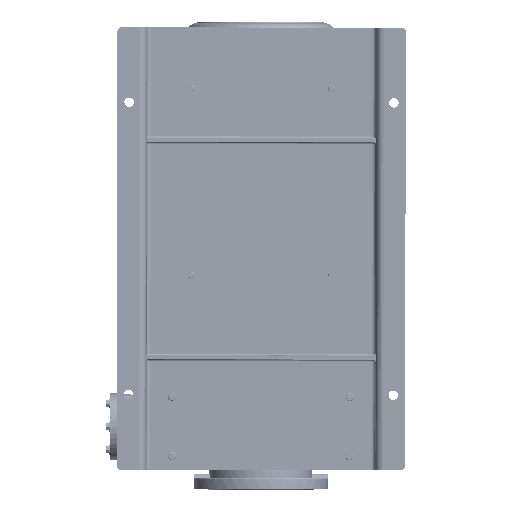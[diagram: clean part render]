
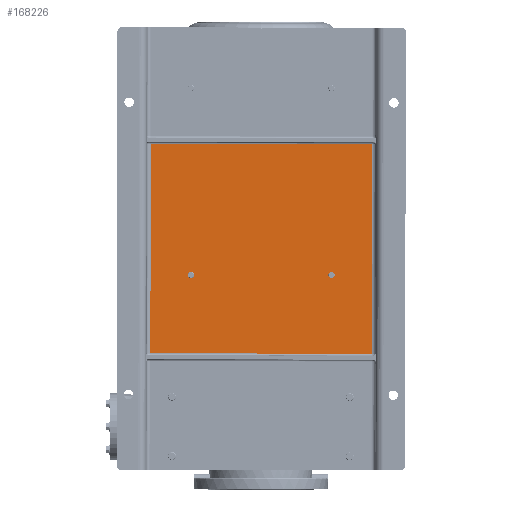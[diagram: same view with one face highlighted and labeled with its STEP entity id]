
A CAD part, front view. The second image highlights one B-rep face of the part: STEP entity #168226.
In plain terms, the highlighted planar face has unit normal (0, -1, 0).
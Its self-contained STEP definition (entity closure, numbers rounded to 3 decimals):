
#4432 = CARTESIAN_POINT ( 'NONE',  ( 75., 90., -825. ) ) ;
#6120 = EDGE_CURVE ( 'NONE', #97899, #99027, #104222, .T. ) ;
#6488 = LINE ( 'NONE', #169000, #59017 ) ;
#13656 = CARTESIAN_POINT ( 'NONE',  ( 645., 90., -290. ) ) ;
#16608 = CARTESIAN_POINT ( 'NONE',  ( 186.99, 90., -502. ) ) ;
#21865 = VECTOR ( 'NONE', #59871, 1000. ) ;
#22307 = CARTESIAN_POINT ( 'NONE',  ( 186.99, 90., -494. ) ) ;
#28031 = CARTESIAN_POINT ( 'NONE',  ( 186.99, 90., -494. ) ) ;
#29134 = CARTESIAN_POINT ( 'NONE',  ( 645., 90., -295. ) ) ;
#32272 = VERTEX_POINT ( 'NONE', #35097 ) ;
#33195 = ORIENTED_EDGE ( 'NONE', *, *, #116507, .T. ) ;
#34935 = LINE ( 'NONE', #4432, #122533 ) ;
#35097 = CARTESIAN_POINT ( 'NONE',  ( 85., 90., -825. ) ) ;
#35976 = DIRECTION ( 'NONE',  ( -1., 0., 0. ) ) ;
#40670 = CIRCLE ( 'NONE', #135207, 8. ) ;
#41152 = DIRECTION ( 'NONE',  ( 0., 0., -1. ) ) ;
#46045 = LINE ( 'NONE', #136693, #178324 ) ;
#52204 = EDGE_CURVE ( 'NONE', #99027, #114511, #6488, .T. ) ;
#56878 = CARTESIAN_POINT ( 'NONE',  ( 645., 90., -825. ) ) ;
#58217 = ORIENTED_EDGE ( 'NONE', *, *, #52204, .T. ) ;
#59017 = VECTOR ( 'NONE', #35976, 1000. ) ;
#59871 = DIRECTION ( 'NONE',  ( 0., 0., 1. ) ) ;
#60305 = ORIENTED_EDGE ( 'NONE', *, *, #125181, .T. ) ;
#64871 = AXIS2_PLACEMENT_3D ( 'NONE', #22307, #98087, #159186 ) ;
#66857 = PLANE ( 'NONE',  #184427 ) ;
#67642 = DIRECTION ( 'NONE',  ( 0., 1., 0. ) ) ;
#69240 = EDGE_CURVE ( 'NONE', #167590, #191801, #187458, .T. ) ;
#69782 = DIRECTION ( 'NONE',  ( 0., -1., 0. ) ) ;
#69792 = ORIENTED_EDGE ( 'NONE', *, *, #132997, .T. ) ;
#70553 = CARTESIAN_POINT ( 'NONE',  ( 543.01, 90., -494. ) ) ;
#71061 = VERTEX_POINT ( 'NONE', #78623 ) ;
#75432 = ORIENTED_EDGE ( 'NONE', *, *, #69240, .T. ) ;
#78623 = CARTESIAN_POINT ( 'NONE',  ( 543.01, 90., -502. ) ) ;
#83245 = EDGE_LOOP ( 'NONE', ( #33195, #133061, #90173, #58217 ) ) ;
#83379 = DIRECTION ( 'NONE',  ( 0., 0., 1. ) ) ;
#90173 = ORIENTED_EDGE ( 'NONE', *, *, #6120, .T. ) ;
#94033 = DIRECTION ( 'NONE',  ( 1., 0., 0. ) ) ;
#97569 = CIRCLE ( 'NONE', #148064, 8. ) ;
#97899 = VERTEX_POINT ( 'NONE', #56878 ) ;
#98087 = DIRECTION ( 'NONE',  ( 0., 1., 0. ) ) ;
#98172 = DIRECTION ( 'NONE',  ( 0., 1., 0. ) ) ;
#99027 = VERTEX_POINT ( 'NONE', #29134 ) ;
#99092 = EDGE_LOOP ( 'NONE', ( #165138, #69792 ) ) ;
#104222 = LINE ( 'NONE', #13656, #21865 ) ;
#114511 = VERTEX_POINT ( 'NONE', #152961 ) ;
#116507 = EDGE_CURVE ( 'NONE', #114511, #32272, #46045, .T. ) ;
#120811 = EDGE_LOOP ( 'NONE', ( #75432, #60305 ) ) ;
#122533 = VECTOR ( 'NONE', #94033, 1000. ) ;
#125181 = EDGE_CURVE ( 'NONE', #191801, #167590, #97569, .T. ) ;
#130322 = CARTESIAN_POINT ( 'NONE',  ( 186.99, 90., -486. ) ) ;
#132997 = EDGE_CURVE ( 'NONE', #71061, #193171, #143509, .T. ) ;
#133061 = ORIENTED_EDGE ( 'NONE', *, *, #138470, .T. ) ;
#134774 = DIRECTION ( 'NONE',  ( 0., 0., -1. ) ) ;
#135207 = AXIS2_PLACEMENT_3D ( 'NONE', #70553, #67642, #83379 ) ;
#136693 = CARTESIAN_POINT ( 'NONE',  ( 85., 90., -830. ) ) ;
#138237 = EDGE_CURVE ( 'NONE', #193171, #71061, #40670, .T. ) ;
#138470 = EDGE_CURVE ( 'NONE', #32272, #97899, #34935, .T. ) ;
#143509 = CIRCLE ( 'NONE', #171906, 8. ) ;
#144491 = CARTESIAN_POINT ( 'NONE',  ( 543.01, 90., -494. ) ) ;
#148064 = AXIS2_PLACEMENT_3D ( 'NONE', #28031, #179679, #191559 ) ;
#152961 = CARTESIAN_POINT ( 'NONE',  ( 85., 90., -295. ) ) ;
#157482 = FACE_BOUND ( 'NONE', #99092, .T. ) ;
#159186 = DIRECTION ( 'NONE',  ( 0., 0., -1. ) ) ;
#159429 = CARTESIAN_POINT ( 'NONE',  ( 75., 90., -1120. ) ) ;
#162170 = DIRECTION ( 'NONE',  ( 0., 0., 1. ) ) ;
#164659 = CARTESIAN_POINT ( 'NONE',  ( 543.01, 90., -486. ) ) ;
#165138 = ORIENTED_EDGE ( 'NONE', *, *, #138237, .T. ) ;
#167590 = VERTEX_POINT ( 'NONE', #130322 ) ;
#168226 = ADVANCED_FACE ( 'NONE', ( #188950, #157482, #173218 ), #66857, .T. ) ;
#169000 = CARTESIAN_POINT ( 'NONE',  ( 75., 90., -295. ) ) ;
#171906 = AXIS2_PLACEMENT_3D ( 'NONE', #144491, #98172, #162170 ) ;
#173218 = FACE_OUTER_BOUND ( 'NONE', #83245, .T. ) ;
#178324 = VECTOR ( 'NONE', #134774, 1000. ) ;
#179679 = DIRECTION ( 'NONE',  ( 0., 1., 0. ) ) ;
#184427 = AXIS2_PLACEMENT_3D ( 'NONE', #159429, #69782, #41152 ) ;
#187458 = CIRCLE ( 'NONE', #64871, 8. ) ;
#188950 = FACE_BOUND ( 'NONE', #120811, .T. ) ;
#191559 = DIRECTION ( 'NONE',  ( 0., 0., -1. ) ) ;
#191801 = VERTEX_POINT ( 'NONE', #16608 ) ;
#193171 = VERTEX_POINT ( 'NONE', #164659 ) ;
